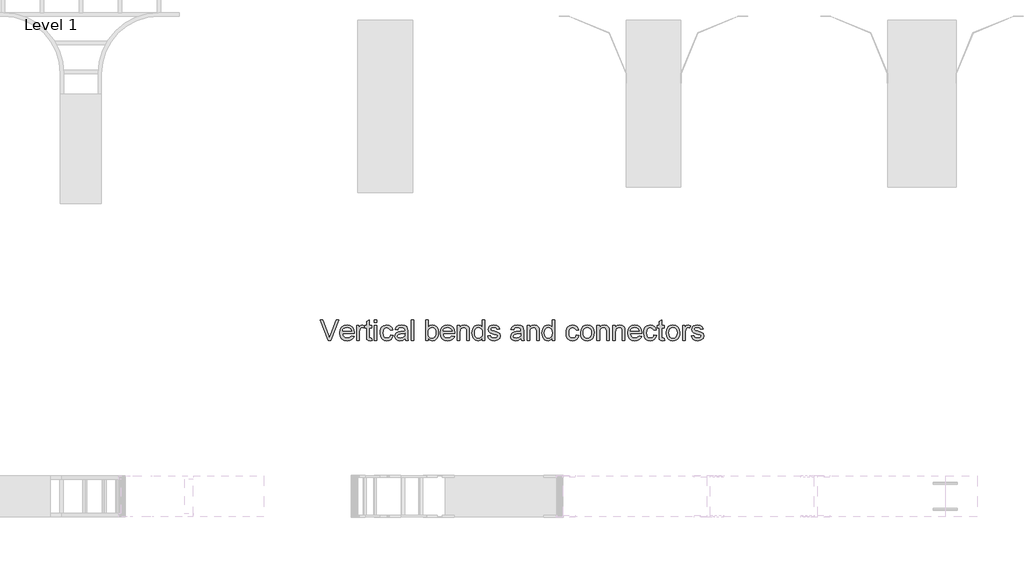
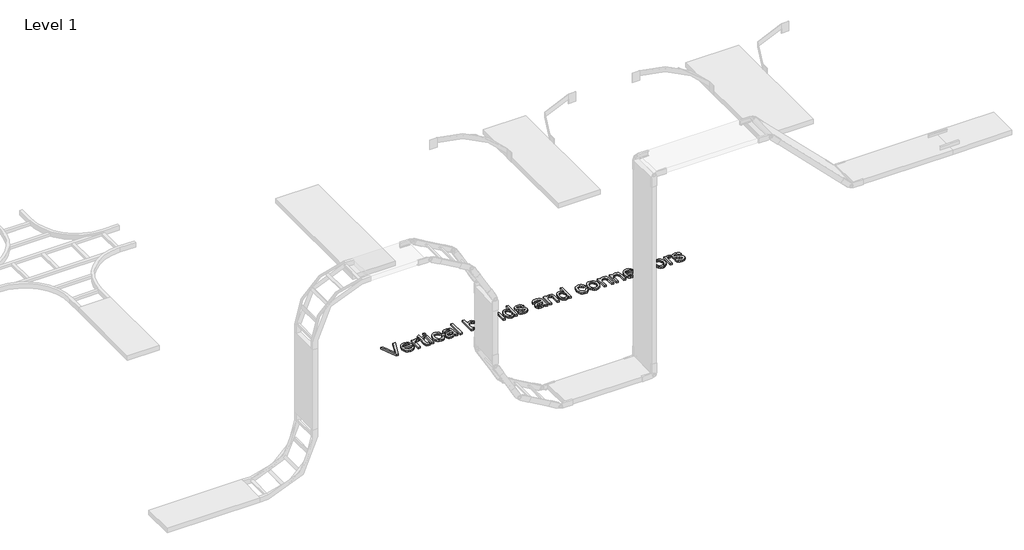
# One storey, part 43 of 106: 1 proxy.
"""IFC4 building model written with IfcOpenShell, lengths in millimetres."""

import ifcopenshell
import ifcopenshell.guid

model = None  # the IFC model being written
_history = None  # IfcOwnerHistory: only IFC2X3 demands one
_inside = {}  # id of a spatial element -> (the spatial element, [elements in it])
_under = {}  # id of a project, library or spatial element -> (it, [spatial elements below it])
_declared = {}  # id of a project -> (the project, [libraries it declares])
_typed = {}  # id of a type object -> (the type object, [elements of that type])
_made_of = {}  # id of a material, layer set ... -> (it, [elements and type objects made of it])


def new_model(schema):
    """Start an empty IFC model of exactly this schema.

    Asked for "IFC4X3", IfcOpenShell would pick the latest addendum, in which some entities
    have other attributes; the version numbers below select the first issue.
    IFC2X3 requires an IfcOwnerHistory on every rooted entity: one is made here for all.
    """
    global model, _history
    if schema == "IFC4X3":
        model = ifcopenshell.file(schema_version=(4, 3, 0, 0))
    else:
        model = ifcopenshell.file(schema=schema)
    _inside.clear()
    _under.clear()
    _declared.clear()
    _typed.clear()
    _made_of.clear()
    _history = None
    if model.schema == "IFC2X3":
        org = make("IfcOrganization", Name="unknown")
        user = make(
            "IfcPersonAndOrganization",
            ThePerson=make("IfcPerson", FamilyName="unknown"),
            TheOrganization=org,
        )
        app = make(
            "IfcApplication",
            ApplicationDeveloper=org,
            Version="unknown",
            ApplicationFullName="unknown",
            ApplicationIdentifier="unknown",
        )
        _history = make(
            "IfcOwnerHistory",
            OwningUser=user,
            OwningApplication=app,
            ChangeAction="ADDED",
            CreationDate=0,
        )
    return model


def make(cls, **values):
    """One entity of the class cls with the attributes given. An attribute that is None is left unset."""
    return model.create_entity(
        cls, **{name: value for name, value in values.items() if value is not None}
    )


def rooted(cls, **values):
    """An entity with a GlobalId (a new one), such as an element, a storey or a relation."""
    return make(cls, GlobalId=ifcopenshell.guid.new(), OwnerHistory=_history, **values)


def si_unit(unit_type, name, prefix=None):
    """IfcSIUnit, for example si_unit("LENGTHUNIT", "METRE", prefix="MILLI")."""
    return make("IfcSIUnit", UnitType=unit_type, Prefix=prefix, Name=name)


def assignment(units):
    """IfcUnitAssignment: the units of a project."""
    return None if units is None else make("IfcUnitAssignment", Units=units)


def point(xyz):
    """IfcCartesianPoint."""
    return None if xyz is None else make("IfcCartesianPoint", Coordinates=xyz)


def direction(xyz):
    """IfcDirection."""
    return None if xyz is None else make("IfcDirection", DirectionRatios=xyz)


def frame(location, z_axis=None, x_axis=None):
    """IfcAxis2Placement3D, a coordinate frame: its origin and axes. An axis left out is left unset."""
    return make(
        "IfcAxis2Placement3D",
        Location=point(location),
        Axis=direction(z_axis),
        RefDirection=direction(x_axis),
    )


def origin():
    """The frame at (0, 0, 0) with its axes left unset."""
    return frame((0.0, 0.0, 0.0))


def origin_with_axes():
    """The frame at (0, 0, 0) with the z axis (0, 0, 1) and the x axis (1, 0, 0) written out."""
    return frame((0.0, 0.0, 0.0), z_axis=(0.0, 0.0, 1.0), x_axis=(1.0, 0.0, 0.0))


def place(relative_to, where):
    """IfcLocalPlacement: puts the frame where relative to a parent placement (None: the world)."""
    return make(
        "IfcLocalPlacement", PlacementRelTo=relative_to, RelativePlacement=where
    )


def context(
    kind, dimensions, precision=None, world=None, true_north=None, identifier=None
):
    """IfcGeometricRepresentationContext, for example the 3D "Model" context."""
    return make(
        "IfcGeometricRepresentationContext",
        ContextIdentifier=identifier,
        ContextType=kind,
        CoordinateSpaceDimension=dimensions,
        Precision=precision,
        WorldCoordinateSystem=world,
        TrueNorth=true_north,
    )


def project(units=None, contexts=None):
    """IfcProject with its units and contexts."""
    return rooted(
        "IfcProject",
        Name="project",
        RepresentationContexts=contexts,
        UnitsInContext=assignment(units),
    )


def spatial(cls, under=None, at=None, **own):
    """A site, building, storey or space (cls), placed at a placement, below another one or the project."""
    s = rooted(cls, ObjectPlacement=at, **own)
    if under is not None:
        _under.setdefault(under.id(), (under, []))[1].append(s)
    return s


def polyline(points):
    """IfcPolyline through the points."""
    return make("IfcPolyline", Points=[point(p) for p in points])


def outline(outer, holes=None, kind="AREA"):
    """IfcArbitraryClosedProfileDef: a profile drawn as a closed curve; with holes, ...WithVoids."""
    if holes is None:
        return make("IfcArbitraryClosedProfileDef", ProfileType=kind, OuterCurve=outer)
    return make(
        "IfcArbitraryProfileDefWithVoids",
        ProfileType=kind,
        OuterCurve=outer,
        InnerCurves=holes,
    )


def extrude(swept, where, along, depth):
    """IfcExtrudedAreaSolid: the profile swept, set in the frame where, extruded along a direction by depth."""
    return make(
        "IfcExtrudedAreaSolid",
        SweptArea=swept,
        Position=where,
        ExtrudedDirection=direction(along),
        Depth=depth,
    )


def shape(context_of_items, identifier, shape_type, items):
    """IfcShapeRepresentation: the items that make up one representation, for example the "Body"."""
    return make(
        "IfcShapeRepresentation",
        ContextOfItems=context_of_items,
        RepresentationIdentifier=identifier,
        RepresentationType=shape_type,
        Items=items,
    )


def made_of(thing, what):
    """Note that an element or type object is made of a material, layer set ...; save() writes the relation."""
    if what is not None:
        _made_of.setdefault(what.id(), (what, []))[1].append(thing)
    return thing


def element(
    cls,
    number,
    at=None,
    inside=None,
    cuts=None,
    type_object=None,
    material=None,
    context=None,
    identifier="Body",
    shape_type=None,
    held_by="IfcProductDefinitionShape",
    body=None,
    shapes=None,
    **own,
):
    """One element of the class cls, such as IfcWall. Its Tag is "e" and its number.

    at: its placement. inside: the storey or other place that contains it. cuts: it is an
    opening in that element (IfcRelVoidsElement). A single representation is given by context,
    identifier, shape_type and body (its items); several are given by shapes. held_by: the class
    of the entity that holds the representations. save() writes the other relations.
    """
    e = rooted(cls, Tag="e%d" % number, ObjectPlacement=at, **own)
    if body is not None:
        shapes = [shape(context, identifier, shape_type, body)]
    if shapes is not None:
        e.Representation = make(held_by, Representations=shapes)
    if inside is not None:
        _inside.setdefault(inside.id(), (inside, []))[1].append(e)
    if cuts is not None:
        rooted(
            "IfcRelVoidsElement", RelatingBuildingElement=cuts, RelatedOpeningElement=e
        )
    if type_object is not None:
        _typed.setdefault(type_object.id(), (type_object, []))[1].append(e)
    return made_of(e, material)


def aggregate(whole, parts):
    """IfcRelAggregates: a whole, such as a stair, and the parts it consists of."""
    return rooted("IfcRelAggregates", RelatingObject=whole, RelatedObjects=parts)


def save(model, path):
    """Write the relations noted so far, then the file.

    IfcRelAggregates (storeys below a building ...), IfcRelContainedInSpatialStructure (elements
    in a storey), IfcRelDefinesByType, IfcRelAssociatesMaterial and IfcRelDeclares: one each for
    every whole, place, type object, material and project.
    """
    for whole, parts in _under.values():
        aggregate(whole, parts)
    for where, things in _inside.values():
        rooted(
            "IfcRelContainedInSpatialStructure",
            RelatedElements=things,
            RelatingStructure=where,
        )
    for kind, things in _typed.values():
        rooted("IfcRelDefinesByType", RelatedObjects=things, RelatingType=kind)
    for what, things in _made_of.values():
        rooted("IfcRelAssociatesMaterial", RelatedObjects=things, RelatingMaterial=what)
    for by, libraries in _declared.values():
        rooted("IfcRelDeclares", RelatingContext=by, RelatedDefinitions=libraries)
    model.write(path)


model = new_model("IFC4")

# Units and contexts
model_context = context("Model", 3, world=origin())
ifc_project = project(units=[si_unit("LENGTHUNIT", "METRE", prefix="MILLI")], contexts=[model_context])

# Site, building, storey
site = spatial("IfcSite", under=ifc_project)
building = spatial("IfcBuilding", under=site)
storey = spatial("IfcBuildingStorey", under=building, Name="Level 1", Elevation=0.0)

# Proxy
placement = place(None, origin())
element("IfcBuildingElementProxy", 1, Name="150mm Arial 2", ObjectType="150mm Arial 2", at=placement, inside=storey, context=model_context, shape_type="SweptSolid", body=[
    extrude(outline(polyline([(41572.9663468, 25747.8476348), (41513.0015816, 25898.5321), (41533.1615149, 25898.5321), (41573.2974406, 25789.9701232), (41581.4276327, 25765.5059705), (41589.4474602, 25789.9701232), (41629.6937505, 25898.5321), (41649.8536838, 25898.5321), (41592.4273044, 25747.8476348), (41572.9663468, 25747.8476348)])), origin_with_axes(), (0.0, 0.0, 1.0), 15.0),
    extrude(outline(polyline([(41742.4863702, 25780.8098615), (41760.9540463, 25778.4554168), (41754.2999808, 25764.5402803), (41743.6819867, 25754.1384169), (41729.3391874, 25747.6544967), (41711.5107062, 25745.49319), (41689.4101953, 25749.2225937), (41672.4048501, 25760.4108049), (41661.5615283, 25778.3312566), (41657.9470877, 25802.2573819), (41661.5983165, 25826.988249), (41672.5520029, 25845.4835163), (41689.3274219, 25857.0166168), (41710.4438484, 25860.8609837), (41730.9026859, 25857.0258139), (41747.250442, 25845.5203045), (41757.9696037, 25827.0618254), (41761.5426575, 25802.3677465), (41761.4322929, 25797.2909749), (41676.7826459, 25797.2909749), (41680.043, 25783.1918975), (41687.6167706, 25772.8268223), (41698.5474644, 25766.4532667), (41711.8785882, 25764.3287482), (41730.3462644, 25768.2650855), (41742.4863702, 25780.8098615)]), holes=[polyline([(41676.7826459, 25816.1265331), (41742.7070994, 25816.1265331), (41740.1595166, 25826.0777411), (41735.1655185, 25833.1962577), (41724.1842409, 25839.8181336), (41710.370272, 25842.0254255), (41697.6737447, 25840.2641905), (41687.1753122, 25834.9804853), (41679.8774531, 25826.7445272), (41676.7826459, 25816.1265331)])]), origin_with_axes(), (0.0, 0.0, 1.0), 15.0),
    extrude(outline(polyline([(41891.0371198, 25763.556196), (41893.3915646, 25747.2958118), (41879.3016842, 25745.49319), (41863.5195466, 25748.620187), (41855.6468719, 25756.8239555), (41853.3660035, 25778.1978994), (41853.3660035, 25839.6709808), (41839.2393349, 25839.6709808), (41839.2393349, 25855.0484482), (41839.2393349, 25858.5065389), (41853.3660035, 25858.5065389), (41853.3660035, 25885.3987128), (41872.2015617, 25896.4719608), (41872.2015617, 25858.5065389), (41891.0371198, 25858.5065389), (41891.0371198, 25839.6709808), (41872.2015617, 25839.6709808), (41872.2015617, 25778.7497224), (41873.1948431, 25769.0376377), (41876.4138105, 25765.597941), (41882.8333514, 25764.3287482), (41891.0371198, 25763.556196)])), origin_with_axes(), (0.0, 0.0, 1.0), 15.0),
    extrude(outline(polyline([(41780.3782157, 25747.8476348), (41780.3782157, 25858.5065389), (41796.8593291, 25858.5065389), (41796.8593291, 25842.1357901), (41808.5579765, 25857.2189519), (41820.3302004, 25860.8609837), (41839.2393349, 25855.0484482), (41832.9485528, 25838.1626646), (41819.704801, 25842.0254255), (41809.0546172, 25838.3098174), (41802.2671944, 25828.0091215), (41799.2137738, 25806.0097782), (41799.2137738, 25747.8476348), (41780.3782157, 25747.8476348)])), origin_with_axes(), (0.0, 0.0, 1.0), 15.0),
    extrude(outline(polyline([(41909.872678, 25879.6965419), (41909.872678, 25898.5321), (41928.7082362, 25898.5321), (41928.7082362, 25879.6965419), (41909.872678, 25879.6965419)])), origin_with_axes(), (0.0, 0.0, 1.0), 15.0),
    extrude(outline(polyline([(41909.872678, 25747.8476348), (41909.872678, 25858.5065389), (41928.7082362, 25858.5065389), (41928.7082362, 25747.8476348), (41909.872678, 25747.8476348)])), origin_with_axes(), (0.0, 0.0, 1.0), 15.0),
    extrude(outline(polyline([(42027.5949165, 25787.8731959), (42046.4304746, 25785.5187511), (42041.1789591, 25768.7663247), (42031.3105246, 25756.1065856), (42017.7540731, 25748.1465389), (42001.4385066, 25745.49319), (41981.4027334, 25749.1950026), (41965.735559, 25760.3004403), (41955.6234026, 25778.3220596), (41952.2526838, 25802.7724167), (41953.6920221, 25819.5340401), (41958.0100371, 25834.0607803), (41965.2757065, 25845.7916175), (41975.5580082, 25854.1655314), (41987.8590624, 25859.1871206), (42001.1809892, 25860.8609837), (42017.096484, 25858.5617212), (42029.8206025, 25851.6639338), (42038.9486745, 25840.5355035), (42044.0760298, 25825.5443122), (42025.2404717, 25823.1898674), (42016.5032743, 25837.2981419), (42001.328142, 25842.0254255), (41989.1558465, 25839.6985719), (41979.4943456, 25832.7180111), (41973.1897679, 25820.7066639), (41971.088242, 25803.2874515), (41973.1437826, 25785.6337142), (41979.3104046, 25773.5809803), (41988.7971615, 25766.6418062), (42000.8131072, 25764.3287482), (42010.5665786, 25765.772685), (42018.5634135, 25770.1044955), (42024.3805475, 25777.4345442), (42027.5949165, 25787.8731959)])), origin_with_axes(), (0.0, 0.0, 1.0), 15.0),
    extrude(outline(polyline([(42133.5449311, 25761.9743034), (42115.27959, 25749.2087982), (42095.1012626, 25745.49319), (42079.3605117, 25747.7280731), (42067.7492362, 25754.4327225), (42060.5893329, 25764.6138567), (42058.2026985, 25777.2781944), (42061.807942, 25792.1774152), (42071.2809034, 25802.9931459), (42084.4694729, 25809.1735634), (42100.7666453, 25812.0062547), (42133.4345665, 25818.4809779), (42133.5449311, 25822.6748326), (42132.248147, 25831.0809362), (42128.3577949, 25836.580772), (42119.6573857, 25840.6642622), (42107.535674, 25842.0254255), (42088.4793867, 25838.4017879), (42079.3927014, 25825.5443122), (42060.5571432, 25827.8987569), (42068.7057294, 25846.2928567), (42085.1132664, 25857.0717991), (42109.9636952, 25860.8609837), (42132.790773, 25857.5132575), (42145.6850369, 25849.107154), (42151.4607842, 25836.3232546), (42152.3804892, 25819.8421412), (42152.3804892, 25796.4080581), (42153.3369824, 25763.6849547), (42157.0893788, 25747.8476348), (42138.2538206, 25747.8476348), (42133.5449311, 25761.9743034)]), holes=[polyline([(42133.5449311, 25799.6454197), (42103.1578783, 25793.8696724), (42086.9526764, 25790.8162518), (42079.6134306, 25785.8498449), (42077.0382566, 25778.6025696), (42082.648457, 25768.4122383), (42099.1111763, 25764.3287482), (42118.1674637, 25768.8353026), (42130.4547223, 25779.7430038), (42133.4345665, 25794.3111308), (42133.5449311, 25799.6454197)])]), origin_with_axes(), (0.0, 0.0, 1.0), 15.0),
    extrude(outline(polyline([(42178.2793817, 25747.8476348), (42178.2793817, 25898.5321), (42197.1149398, 25898.5321), (42197.1149398, 25747.8476348), (42178.2793817, 25747.8476348)])), origin_with_axes(), (0.0, 0.0, 1.0), 15.0),
    extrude(outline(polyline([(42303.0649544, 25747.8476348), (42284.2293963, 25747.8476348), (42284.2293963, 25898.5321), (42303.0649544, 25898.5321), (42303.0649544, 25842.6508249), (42316.253524, 25856.308444), (42332.6426669, 25860.8609837), (42351.5150132, 25856.7590995), (42366.1567166, 25845.2259989), (42375.1514314, 25827.2917516), (42378.4071871, 25804.8325558), (42375.0364683, 25779.6878215), (42364.9243119, 25760.981022), (42350.084872, 25749.365148), (42332.5323023, 25745.49319), (42315.7844744, 25750.4871881), (42303.0649544, 25765.4691823), (42303.0649544, 25747.8476348)]), holes=[polyline([(42303.0649544, 25803.949639), (42304.3525414, 25788.2410779), (42308.2153024, 25777.6092882), (42318.0837369, 25767.6488832), (42330.9136215, 25764.3287482), (42341.7845344, 25766.7751634), (42351.0735548, 25774.1144092), (42357.4471104, 25786.3005003), (42359.5716289, 25803.2874515), (42357.5344824, 25820.5227229), (42351.4230427, 25832.5708583), (42342.4237294, 25839.6617837), (42331.7229619, 25842.0254255), (42320.8520489, 25839.5790103), (42311.5630285, 25832.2397645), (42305.189473, 25820.2744026), (42303.0649544, 25803.949639)])]), origin_with_axes(), (0.0, 0.0, 1.0), 15.0),
    extrude(outline(polyline([(42477.0731382, 25780.8098615), (42495.5408143, 25778.4554168), (42488.8867487, 25764.5402803), (42478.2687546, 25754.1384169), (42463.9259554, 25747.6544967), (42446.0974742, 25745.49319), (42423.9969633, 25749.2225937), (42406.9916181, 25760.4108049), (42396.1482963, 25778.3312566), (42392.5338557, 25802.2573819), (42396.1850845, 25826.988249), (42407.1387709, 25845.4835163), (42423.9141899, 25857.0166168), (42445.0306164, 25860.8609837), (42465.4894538, 25857.0258139), (42481.83721, 25845.5203045), (42492.5563716, 25827.0618254), (42496.1294255, 25802.3677465), (42496.0190609, 25797.2909749), (42411.3694138, 25797.2909749), (42414.629768, 25783.1918975), (42422.2035386, 25772.8268223), (42433.1342324, 25766.4532667), (42446.4653562, 25764.3287482), (42464.9330323, 25768.2650855), (42477.0731382, 25780.8098615)]), holes=[polyline([(42411.3694138, 25816.1265331), (42477.2938674, 25816.1265331), (42474.7462845, 25826.0777411), (42469.7522865, 25833.1962577), (42458.7710089, 25839.8181336), (42444.95704, 25842.0254255), (42432.2605126, 25840.2641905), (42421.7620802, 25834.9804853), (42414.4642211, 25826.7445272), (42411.3694138, 25816.1265331)])]), origin_with_axes(), (0.0, 0.0, 1.0), 15.0),
    extrude(outline(polyline([(42514.9649837, 25747.8476348), (42514.9649837, 25858.5065389), (42533.8005418, 25858.5065389), (42533.8005418, 25843.0554951), (42548.2031219, 25856.4096116), (42567.8664146, 25860.8609837), (42585.653509, 25857.2741342), (42597.7936149, 25847.8563552), (42603.4406035, 25834.0055981), (42604.4338849, 25815.7954393), (42604.4338849, 25747.8476348), (42585.5983267, 25747.8476348), (42585.5983267, 25813.2570535), (42583.427823, 25829.9221079), (42575.7574834, 25838.7328817), (42562.8264312, 25842.0254255), (42551.7945699, 25840.1768185), (42542.3905864, 25834.6309974), (42535.948053, 25823.9164343), (42533.8005418, 25806.5616012), (42533.8005418, 25747.8476348), (42514.9649837, 25747.8476348)])), origin_with_axes(), (0.0, 0.0, 1.0), 15.0),
    extrude(outline(polyline([(42698.6116757, 25747.8476348), (42698.6116757, 25765.6163351), (42686.1496731, 25750.5239763), (42668.9235986, 25745.49319), (42656.7467046, 25747.3142059), (42645.5998802, 25752.7772535), (42636.163707, 25761.5006553), (42629.1187668, 25773.1027337), (42624.731774, 25787.1144392), (42623.269443, 25803.0667223), (42628.6589143, 25833.0491049), (42635.3911548, 25844.9408904), (42644.8089339, 25853.6872848), (42656.1994801, 25859.067559), (42668.8500222, 25860.8609837), (42686.2140524, 25855.7290299), (42698.6116757, 25842.3933075), (42698.6116757, 25898.5321), (42717.4472338, 25898.5321), (42717.4472338, 25747.8476348), (42698.6116757, 25747.8476348)]), holes=[polyline([(42642.1050012, 25803.1402987), (42644.2295197, 25786.1027638), (42650.6030753, 25773.9856505), (42659.8645045, 25766.7429738), (42670.652644, 25764.3287482), (42681.436185, 25766.6326092), (42690.4630895, 25773.5441921), (42696.5745291, 25785.1922558), (42698.6116757, 25801.7055589), (42696.5377409, 25819.7593678), (42690.3159367, 25832.2765527), (42681.059106, 25839.5882073), (42669.8800918, 25842.0254255), (42658.9815877, 25839.6847764), (42650.0512523, 25832.6628288), (42644.091564, 25820.6008979), (42642.1050012, 25803.1402987)])]), origin_with_axes(), (0.0, 0.0, 1.0), 15.0),
    extrude(outline(polyline([(42738.6372367, 25780.8098615), (42757.4727949, 25783.1643063), (42760.443442, 25775.1076906), (42766.1915982, 25769.1847905), (42786.1675905, 25764.3287482), (42805.3710307, 25768.7801203), (42811.6250246, 25779.227969), (42810.052329, 25784.028829), (42805.3342425, 25787.6892549), (42785.9468613, 25793.060332), (42757.5831595, 25802.275776), (42745.2039303, 25813.0363243), (42740.9916815, 25828.2298507), (42744.3761959, 25842.2645488), (42753.6100339, 25852.988309), (42765.5845929, 25858.5617212), (42781.7897948, 25860.8609837), (42804.7088431, 25857.1637696), (42819.2769701, 25847.1573794), (42825.7516932, 25830.2532017), (42806.916135, 25827.8987569), (42799.8344066, 25838.2914233), (42783.2613227, 25842.0254255), (42765.235105, 25838.4569702), (42759.8272397, 25830.1428371), (42762.0713198, 25824.6613954), (42769.0978659, 25820.5043288), (42785.3214619, 25816.4944151), (42812.9677939, 25807.628459), (42825.8068755, 25797.5852805), (42830.4605827, 25781.2145317), (42824.9975351, 25763.188314), (42809.2337916, 25750.1101091), (42785.9100731, 25745.49319), (42766.9181651, 25747.7188761), (42753.0582109, 25754.3959343), (42743.8059788, 25765.4507882), (42738.6372367, 25780.8098615)])), origin_with_axes(), (0.0, 0.0, 1.0), 15.0),
    extrude(outline(polyline([(42981.145048, 25761.9743034), (42962.8797069, 25749.2087982), (42942.7013795, 25745.49319), (42926.9606286, 25747.7280731), (42915.3493531, 25754.4327225), (42908.1894498, 25764.6138567), (42905.8028153, 25777.2781944), (42909.4080589, 25792.1774152), (42918.8810203, 25802.9931459), (42932.0695898, 25809.1735634), (42948.3667622, 25812.0062547), (42981.0346834, 25818.4809779), (42981.145048, 25822.6748326), (42979.8482639, 25831.0809362), (42975.9579118, 25836.580772), (42967.2575026, 25840.6642622), (42955.1357909, 25842.0254255), (42936.0795035, 25838.4017879), (42926.9928183, 25825.5443122), (42908.1572601, 25827.8987569), (42916.3058463, 25846.2928567), (42932.7133833, 25857.0717991), (42957.5638121, 25860.8609837), (42980.3908899, 25857.5132575), (42993.2851538, 25849.107154), (42999.0609011, 25836.3232546), (42999.9806061, 25819.8421412), (42999.9806061, 25796.4080581), (43000.9370993, 25763.6849547), (43004.6894956, 25747.8476348), (42985.8539375, 25747.8476348), (42981.145048, 25761.9743034)]), holes=[polyline([(42981.145048, 25799.6454197), (42950.7579952, 25793.8696724), (42934.5527933, 25790.8162518), (42927.2135475, 25785.8498449), (42924.6383735, 25778.6025696), (42930.2485739, 25768.4122383), (42946.7112932, 25764.3287482), (42965.7675806, 25768.8353026), (42978.0548392, 25779.7430038), (42981.0346834, 25794.3111308), (42981.145048, 25799.6454197)])]), origin_with_axes(), (0.0, 0.0, 1.0), 15.0),
    extrude(outline(polyline([(43025.8794986, 25747.8476348), (43025.8794986, 25858.5065389), (43044.7150567, 25858.5065389), (43044.7150567, 25843.0554951), (43059.1176368, 25856.4096116), (43078.7809295, 25860.8609837), (43096.5680239, 25857.2741342), (43108.7081298, 25847.8563552), (43114.3551184, 25834.0055981), (43115.3483998, 25815.7954393), (43115.3483998, 25747.8476348), (43096.5128416, 25747.8476348), (43096.5128416, 25813.2570535), (43094.3423379, 25829.9221079), (43086.6719983, 25838.7328817), (43073.7409461, 25842.0254255), (43062.7090848, 25840.1768185), (43053.3051013, 25834.6309974), (43046.8625679, 25823.9164343), (43044.7150567, 25806.5616012), (43044.7150567, 25747.8476348), (43025.8794986, 25747.8476348)])), origin_with_axes(), (0.0, 0.0, 1.0), 15.0),
    extrude(outline(polyline([(43209.5261906, 25747.8476348), (43209.5261906, 25765.6163351), (43197.064188, 25750.5239763), (43179.8381135, 25745.49319), (43167.6612195, 25747.3142059), (43156.5143951, 25752.7772535), (43147.0782219, 25761.5006553), (43140.0332817, 25773.1027337), (43135.6462889, 25787.1144392), (43134.1839579, 25803.0667223), (43139.5734292, 25833.0491049), (43146.3056697, 25844.9408904), (43155.7234488, 25853.6872848), (43167.113995, 25859.067559), (43179.7645371, 25860.8609837), (43197.1285673, 25855.7290299), (43209.5261906, 25842.3933075), (43209.5261906, 25898.5321), (43228.3617487, 25898.5321), (43228.3617487, 25747.8476348), (43209.5261906, 25747.8476348)]), holes=[polyline([(43153.0195161, 25803.1402987), (43155.1440346, 25786.1027638), (43161.5175902, 25773.9856505), (43170.7790194, 25766.7429738), (43181.5671589, 25764.3287482), (43192.3506999, 25766.6326092), (43201.3776044, 25773.5441921), (43207.489044, 25785.1922558), (43209.5261906, 25801.7055589), (43207.4522558, 25819.7593678), (43201.2304516, 25832.2765527), (43191.9736209, 25839.5882073), (43180.7946067, 25842.0254255), (43169.8961026, 25839.6847764), (43160.9657672, 25832.6628288), (43155.0060789, 25820.6008979), (43153.0195161, 25803.1402987)])]), origin_with_axes(), (0.0, 0.0, 1.0), 15.0),
    extrude(outline(polyline([(43386.1095482, 25787.8731959), (43404.9451064, 25785.5187511), (43399.6935909, 25768.7663247), (43389.8251564, 25756.1065856), (43376.2687049, 25748.1465389), (43359.9531384, 25745.49319), (43339.9173652, 25749.1950026), (43324.2501908, 25760.3004403), (43314.1380344, 25778.3220596), (43310.7673156, 25802.7724167), (43312.2066539, 25819.5340401), (43316.5246689, 25834.0607803), (43323.7903383, 25845.7916175), (43334.07264, 25854.1655314), (43346.3736942, 25859.1871206), (43359.695621, 25860.8609837), (43375.6111158, 25858.5617212), (43388.3352343, 25851.6639338), (43397.4633063, 25840.5355035), (43402.5906616, 25825.5443122), (43383.7551035, 25823.1898674), (43375.0179061, 25837.2981419), (43359.8427738, 25842.0254255), (43347.6704783, 25839.6985719), (43338.0089774, 25832.7180111), (43331.7043997, 25820.7066639), (43329.6028738, 25803.2874515), (43331.6584144, 25785.6337142), (43337.8250364, 25773.5809803), (43347.3117933, 25766.6418062), (43359.327739, 25764.3287482), (43369.0812104, 25765.772685), (43377.0780453, 25770.1044955), (43382.8951793, 25777.4345442), (43386.1095482, 25787.8731959)])), origin_with_axes(), (0.0, 0.0, 1.0), 15.0),
    extrude(outline(polyline([(43416.7173302, 25803.1770869), (43420.7916233, 25829.8577286), (43433.0145026, 25848.6105133), (43448.1160585, 25857.7983661), (43466.1974586, 25860.8609837), (43485.9849114, 25857.13158), (43501.7900416, 25845.9433688), (43512.1505183, 25828.179267), (43515.6040105, 25804.7221912), (43514.0773003, 25785.693495), (43509.4971694, 25771.2081415), (43501.9969752, 25760.3602211), (43491.710075, 25752.2438246), (43479.4917942, 25747.1808487), (43466.1974586, 25745.49319), (43446.1708825, 25749.2087982), (43430.3841464, 25760.3556226), (43420.1340343, 25778.492205), (43416.7173302, 25803.1770869)]), holes=[polyline([(43435.5528884, 25803.2138751), (43437.7325892, 25786.1671431), (43444.2716917, 25774.0224387), (43454.1125351, 25766.7521708), (43466.1974586, 25764.3287482), (43478.2271998, 25766.7659664), (43488.0496491, 25774.077621), (43494.5887516, 25786.3832738), (43496.7684524, 25803.8024862), (43494.574956, 25820.3525775), (43487.9944668, 25832.331735), (43478.158222, 25839.6020029), (43466.1974586, 25842.0254255), (43454.1125351, 25839.6112), (43444.2716917, 25832.3685232), (43437.7325892, 25820.25141), (43435.5528884, 25803.2138751)])]), origin_with_axes(), (0.0, 0.0, 1.0), 15.0),
    extrude(outline(polyline([(43536.7940135, 25747.8476348), (43536.7940135, 25858.5065389), (43555.6295716, 25858.5065389), (43555.6295716, 25843.0554951), (43570.0321517, 25856.4096116), (43589.6954444, 25860.8609837), (43607.4825388, 25857.2741342), (43619.6226447, 25847.8563552), (43625.2696333, 25834.0055981), (43626.2629147, 25815.7954393), (43626.2629147, 25747.8476348), (43607.4273565, 25747.8476348), (43607.4273565, 25813.2570535), (43605.2568528, 25829.9221079), (43597.5865132, 25838.7328817), (43584.655461, 25842.0254255), (43573.6235997, 25840.1768185), (43564.2196162, 25834.6309974), (43557.7770828, 25823.9164343), (43555.6295716, 25806.5616012), (43555.6295716, 25747.8476348), (43536.7940135, 25747.8476348)])), origin_with_axes(), (0.0, 0.0, 1.0), 15.0),
    extrude(outline(polyline([(43652.1618072, 25747.8476348), (43652.1618072, 25858.5065389), (43670.9973653, 25858.5065389), (43670.9973653, 25843.0554951), (43685.3999454, 25856.4096116), (43705.0632381, 25860.8609837), (43722.8503325, 25857.2741342), (43734.9904384, 25847.8563552), (43740.637427, 25834.0055981), (43741.6307084, 25815.7954393), (43741.6307084, 25747.8476348), (43722.7951502, 25747.8476348), (43722.7951502, 25813.2570535), (43720.6246465, 25829.9221079), (43712.9543069, 25838.7328817), (43700.0232547, 25842.0254255), (43688.9913934, 25840.1768185), (43679.5874099, 25834.6309974), (43673.1448765, 25823.9164343), (43670.9973653, 25806.5616012), (43670.9973653, 25747.8476348), (43652.1618072, 25747.8476348)])), origin_with_axes(), (0.0, 0.0, 1.0), 15.0),
    extrude(outline(polyline([(43845.005549, 25780.8098615), (43863.4732252, 25778.4554168), (43856.8191596, 25764.5402803), (43846.2011655, 25754.1384169), (43831.8583662, 25747.6544967), (43814.029885, 25745.49319), (43791.9293742, 25749.2225937), (43774.9240289, 25760.4108049), (43764.0807071, 25778.3312566), (43760.4662665, 25802.2573819), (43764.1174953, 25826.988249), (43775.0711817, 25845.4835163), (43791.8466007, 25857.0166168), (43812.9630272, 25860.8609837), (43833.4218647, 25857.0258139), (43849.7696209, 25845.5203045), (43860.4887825, 25827.0618254), (43864.0618364, 25802.3677465), (43863.9514718, 25797.2909749), (43779.3018247, 25797.2909749), (43782.5621789, 25783.1918975), (43790.1359494, 25772.8268223), (43801.0666432, 25766.4532667), (43814.397767, 25764.3287482), (43832.8654432, 25768.2650855), (43845.005549, 25780.8098615)]), holes=[polyline([(43779.3018247, 25816.1265331), (43845.2262782, 25816.1265331), (43842.6786954, 25826.0777411), (43837.6846973, 25833.1962577), (43826.7034198, 25839.8181336), (43812.8894508, 25842.0254255), (43800.1929235, 25840.2641905), (43789.6944911, 25834.9804853), (43782.396632, 25826.7445272), (43779.3018247, 25816.1265331)])]), origin_with_axes(), (0.0, 0.0, 1.0), 15.0),
    extrude(outline(polyline([(43953.5307376, 25787.8731959), (43972.3662958, 25785.5187511), (43967.1147803, 25768.7663247), (43957.2463458, 25756.1065856), (43943.6898942, 25748.1465389), (43927.3743277, 25745.49319), (43907.3385546, 25749.1950026), (43891.6713801, 25760.3004403), (43881.5592238, 25778.3220596), (43878.188505, 25802.7724167), (43879.6278433, 25819.5340401), (43883.9458582, 25834.0607803), (43891.2115276, 25845.7916175), (43901.4938294, 25854.1655314), (43913.7948836, 25859.1871206), (43927.1168103, 25860.8609837), (43943.0323052, 25858.5617212), (43955.7564237, 25851.6639338), (43964.8844957, 25840.5355035), (43970.011851, 25825.5443122), (43951.1762928, 25823.1898674), (43942.4390954, 25837.2981419), (43927.2639631, 25842.0254255), (43915.0916676, 25839.6985719), (43905.4301667, 25832.7180111), (43899.125589, 25820.7066639), (43897.0240631, 25803.2874515), (43899.0796038, 25785.6337142), (43905.2462257, 25773.5809803), (43914.7329827, 25766.6418062), (43926.7489284, 25764.3287482), (43936.5023998, 25765.772685), (43944.4992346, 25770.1044955), (43950.3163687, 25777.4345442), (43953.5307376, 25787.8731959)])), origin_with_axes(), (0.0, 0.0, 1.0), 15.0),
    extrude(outline(polyline([(44028.8729702, 25763.556196), (44031.227415, 25747.2958118), (44017.1375346, 25745.49319), (44001.355397, 25748.620187), (43993.4827223, 25756.8239555), (43991.2018539, 25778.1978994), (43991.2018539, 25839.6709808), (43977.0751853, 25839.6709808), (43977.0751853, 25858.5065389), (43991.2018539, 25858.5065389), (43991.2018539, 25885.3987128), (44010.0374121, 25896.4719608), (44010.0374121, 25858.5065389), (44028.8729702, 25858.5065389), (44028.8729702, 25839.6709808), (44010.0374121, 25839.6709808), (44010.0374121, 25778.7497224), (44011.0306934, 25769.0376377), (44014.2496609, 25765.597941), (44020.6692017, 25764.3287482), (44028.8729702, 25763.556196)])), origin_with_axes(), (0.0, 0.0, 1.0), 15.0),
    extrude(outline(polyline([(44042.9996388, 25803.1770869), (44047.0739319, 25829.8577286), (44059.2968112, 25848.6105133), (44074.3983671, 25857.7983661), (44092.4797672, 25860.8609837), (44112.26722, 25857.13158), (44128.0723502, 25845.9433688), (44138.4328269, 25828.179267), (44141.8863191, 25804.7221912), (44140.3596089, 25785.693495), (44135.779478, 25771.2081415), (44128.2792838, 25760.3602211), (44117.9923835, 25752.2438246), (44105.7741028, 25747.1808487), (44092.4797672, 25745.49319), (44072.4531911, 25749.2087982), (44056.666455, 25760.3556226), (44046.4163429, 25778.492205), (44042.9996388, 25803.1770869)]), holes=[polyline([(44061.835197, 25803.2138751), (44064.0148978, 25786.1671431), (44070.5540003, 25774.0224387), (44080.3948436, 25766.7521708), (44092.4797672, 25764.3287482), (44104.5095084, 25766.7659664), (44114.3319577, 25774.077621), (44120.8710602, 25786.3832738), (44123.050761, 25803.8024862), (44120.8572646, 25820.3525775), (44114.2767754, 25832.331735), (44104.4405305, 25839.6020029), (44092.4797672, 25842.0254255), (44080.3948436, 25839.6112), (44070.5540003, 25832.3685232), (44064.0148978, 25820.25141), (44061.835197, 25803.2138751)])]), origin_with_axes(), (0.0, 0.0, 1.0), 15.0),
    extrude(outline(polyline([(44163.0763221, 25747.8476348), (44163.0763221, 25858.5065389), (44179.5574354, 25858.5065389), (44179.5574354, 25842.1357901), (44191.2560829, 25857.2189519), (44203.0283067, 25860.8609837), (44221.9374413, 25855.0484482), (44215.6466592, 25838.1626646), (44202.4029073, 25842.0254255), (44191.7527236, 25838.3098174), (44184.9653008, 25828.0091215), (44181.9118802, 25806.0097782), (44181.9118802, 25747.8476348), (44163.0763221, 25747.8476348)])), origin_with_axes(), (0.0, 0.0, 1.0), 15.0),
    extrude(outline(polyline([(44226.6463308, 25780.8098615), (44245.481889, 25783.1643063), (44248.4525361, 25775.1076906), (44254.2006923, 25769.1847905), (44274.1766846, 25764.3287482), (44293.3801247, 25768.7801203), (44299.6341187, 25779.227969), (44298.0614231, 25784.028829), (44293.3433365, 25787.6892549), (44273.9559554, 25793.060332), (44245.5922536, 25802.275776), (44233.2130244, 25813.0363243), (44229.0007756, 25828.2298507), (44232.3852899, 25842.2645488), (44241.619128, 25852.988309), (44253.593687, 25858.5617212), (44269.7988889, 25860.8609837), (44292.7179372, 25857.1637696), (44307.2860642, 25847.1573794), (44313.7607873, 25830.2532017), (44294.9252291, 25827.8987569), (44287.8435007, 25838.2914233), (44271.2704168, 25842.0254255), (44253.2441991, 25838.4569702), (44247.8363337, 25830.1428371), (44250.0804139, 25824.6613954), (44257.10696, 25820.5043288), (44273.330556, 25816.4944151), (44300.9768879, 25807.628459), (44313.8159696, 25797.5852805), (44318.4696768, 25781.2145317), (44313.0066292, 25763.188314), (44297.2428857, 25750.1101091), (44273.9191672, 25745.49319), (44254.9272592, 25747.7188761), (44241.067305, 25754.3959343), (44231.8150729, 25765.4507882), (44226.6463308, 25780.8098615)])), origin_with_axes(), (0.0, 0.0, 1.0), 15.0),
])

save(model, "model.ifc")
